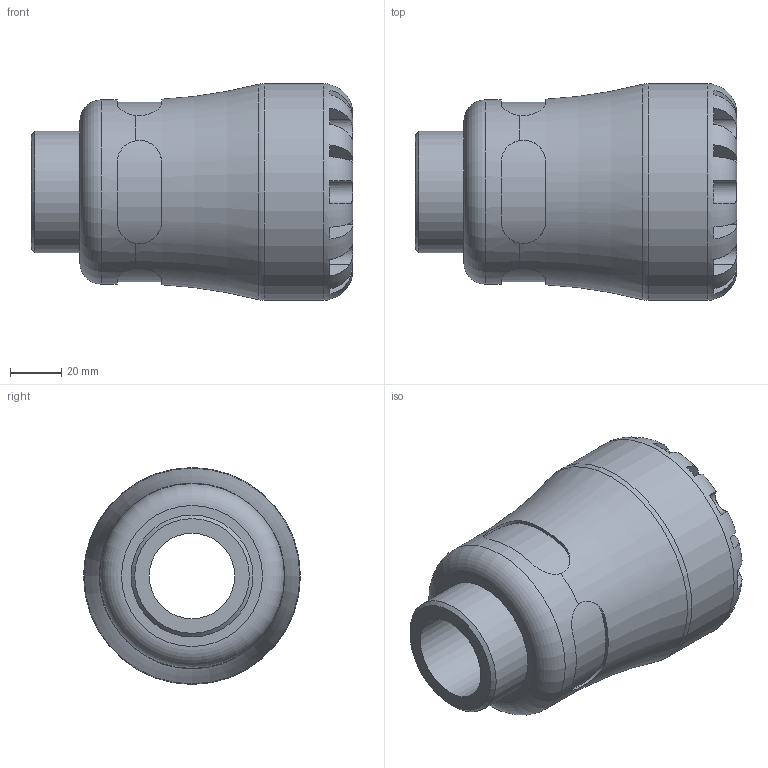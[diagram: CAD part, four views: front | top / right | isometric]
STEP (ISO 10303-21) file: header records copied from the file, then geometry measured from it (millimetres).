
FILE_DESCRIPTION(/* description */ ('PLASSON G-PLASS BRASS MALE ADAPTOR 50X 1 1/2" SERIES 1'),/* implementation_level */ '2;1');
FILE_NAME(/* name */ 'C:\Users\Kirill\Dropbox\99-16-3568-Processing\S1\157200\stp\157200050015.stp',/* time_stamp */ '2023-10-21T23:02:42+04:00',/* author */ ('KIM'),/* organization */ (''),/* preprocessor_version */ 'ST-DEVELOPER v17.2',/* originating_system */ 'Autodesk Inventor 2019',/* authorisation */ '');
FILE_SCHEMA (('AUTOMOTIVE_DESIGN { 1 0 10303 214 3 1 1 }'));
Length unit declared in the file: millimetre
Products named in the file (1): 157200050015
Bounding box: 126 x 85 x 85 mm (x, y, z)
Volume: 330967.7 mm3; surface area: 55495.9 mm2
Topology: 1 solids, 1 shells, 99 faces, 269 edges, 174 vertices
Faces by surface type: plane 60, cylinder 33, torus 4, cone 2
Full cylindrical faces by diameter (mm): 33.517 x1, 47.803 x1, 50 x1, 72.25 x1, 85 x1
Entity records: 4089 total; most frequent: CARTESIAN_POINT 1499, ORIENTED_EDGE 538, DIRECTION 507, EDGE_CURVE 269, AXIS2_PLACEMENT_3D 210, VERTEX_POINT 174, CIRCLE 110, EDGE_LOOP 103
